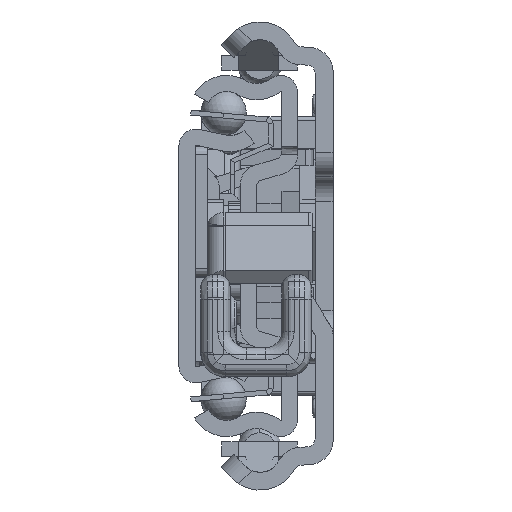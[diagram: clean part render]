
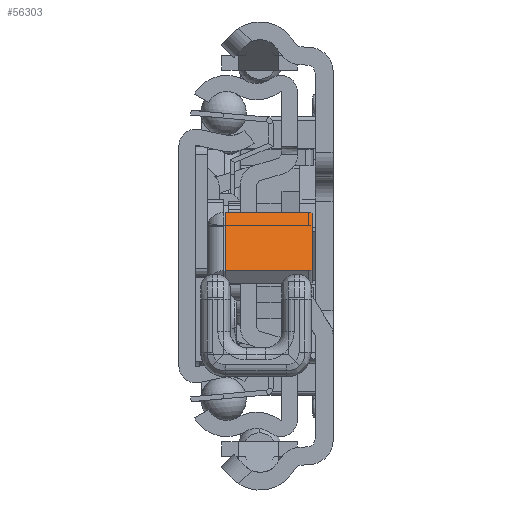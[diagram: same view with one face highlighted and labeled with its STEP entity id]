
A CAD part, left-side view. The second image highlights one B-rep face of the part: STEP entity #56303.
In plain terms, the highlighted planar face has unit normal (-0.597, 0, 0.802) as drawn and (-0.597, -0.802, 0) by its records, which use the part's own axes.
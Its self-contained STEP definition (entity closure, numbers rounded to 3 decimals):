
#55691=DIRECTION('',(0.802,-0.597,0.));
#55692=VECTOR('',#55691,12.);
#55693=CARTESIAN_POINT('',(31.957,-10.314,-0.2));
#55694=LINE('',#55693,#55692);
#55719=DIRECTION('',(0.,0.,1.));
#55720=VECTOR('',#55719,10.3);
#55721=CARTESIAN_POINT('',(41.586,-17.476,-10.5));
#55722=LINE('',#55721,#55720);
#55723=CARTESIAN_POINT('',(41.184,-17.178,-10.5));
#55724=DIRECTION('',(-0.597,-0.802,0.));
#55725=DIRECTION('',(0.,0.,-1.));
#55726=AXIS2_PLACEMENT_3D('',#55723,#55724,#55725);
#55728=DIRECTION('',(0.802,-0.597,0.));
#55729=VECTOR('',#55728,11.);
#55730=CARTESIAN_POINT('',(32.358,-10.613,-11.));
#55731=LINE('',#55730,#55729);
#55732=CARTESIAN_POINT('',(32.358,-10.613,-10.5));
#55733=DIRECTION('',(-0.597,-0.802,0.));
#55734=DIRECTION('',(-0.802,0.597,0.));
#55735=AXIS2_PLACEMENT_3D('',#55732,#55733,#55734);
#55737=DIRECTION('',(0.,0.,-1.));
#55738=VECTOR('',#55737,10.3);
#55739=CARTESIAN_POINT('',(31.957,-10.314,-0.2));
#55740=LINE('',#55739,#55738);
#55957=CARTESIAN_POINT('',(31.957,-10.314,-0.2));
#55958=CARTESIAN_POINT('',(41.586,-17.476,-0.2));
#55959=VERTEX_POINT('',#55957);
#55960=VERTEX_POINT('',#55958);
#55989=CARTESIAN_POINT('',(41.586,-17.476,-10.5));
#55990=VERTEX_POINT('',#55989);
#55991=CARTESIAN_POINT('',(32.358,-10.613,-11.));
#55992=CARTESIAN_POINT('',(41.184,-17.178,-11.));
#55993=VERTEX_POINT('',#55991);
#55994=VERTEX_POINT('',#55992);
#55995=CARTESIAN_POINT('',(31.957,-10.314,-10.5));
#55996=VERTEX_POINT('',#55995);
#56285=CARTESIAN_POINT('',(34.726,-12.374,2.));
#56286=DIRECTION('',(0.597,0.802,0.));
#56287=DIRECTION('',(0.802,-0.597,0.));
#56288=AXIS2_PLACEMENT_3D('',#56285,#56286,#56287);
#56289=PLANE('',#56288);
#56291=ORIENTED_EDGE('',*,*,#56290,.F.);
#56293=ORIENTED_EDGE('',*,*,#56292,.F.);
#56295=ORIENTED_EDGE('',*,*,#56294,.F.);
#56297=ORIENTED_EDGE('',*,*,#56296,.F.);
#56299=ORIENTED_EDGE('',*,*,#56298,.F.);
#56300=ORIENTED_EDGE('',*,*,#56272,.T.);
#56301=EDGE_LOOP('',(#56291,#56293,#56295,#56297,#56299,#56300));
#56302=FACE_OUTER_BOUND('',#56301,.F.);
#55727=CIRCLE('',#55726,0.5);
#55736=CIRCLE('',#55735,0.5);
#56272=EDGE_CURVE('',#55959,#55960,#55694,.T.);
#56290=EDGE_CURVE('',#55990,#55960,#55722,.T.);
#56292=EDGE_CURVE('',#55994,#55990,#55727,.T.);
#56294=EDGE_CURVE('',#55993,#55994,#55731,.T.);
#56296=EDGE_CURVE('',#55996,#55993,#55736,.T.);
#56298=EDGE_CURVE('',#55959,#55996,#55740,.T.);
#56303=ADVANCED_FACE('',(#56302),#56289,.F.);
